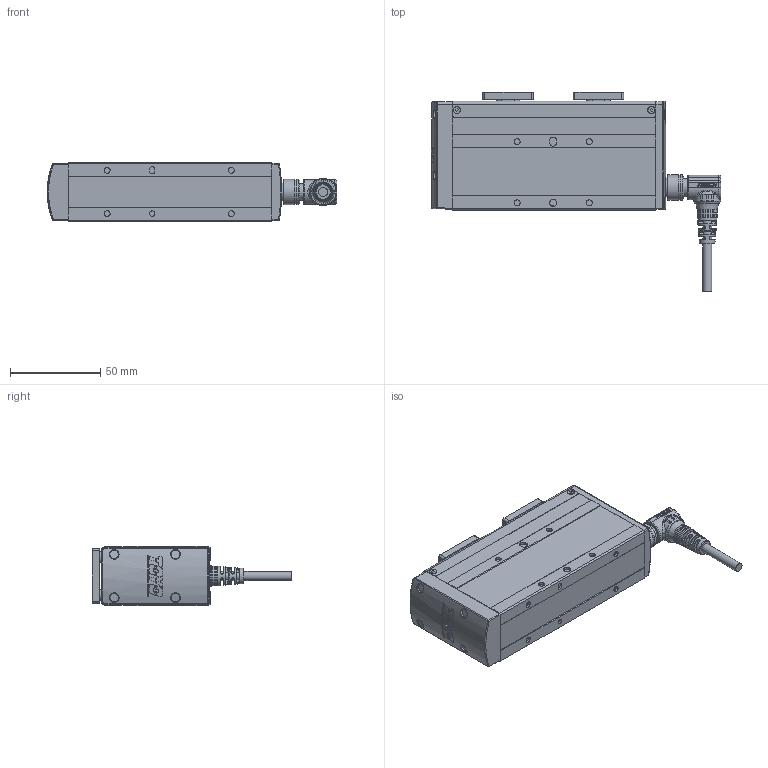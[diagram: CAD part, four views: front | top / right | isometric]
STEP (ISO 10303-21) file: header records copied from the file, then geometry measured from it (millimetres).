
FILE_DESCRIPTION(/* description */ ('STEP AP203'),/* implementation_level */ '2;1');
FILE_NAME(/* name */ 'D:\2025.02.25 帶電匯整給泊舟\3. CHS2系列\4.3D組立\2B-S40\CHS2B-S40-WW.stp',/* time_stamp */ '2025-02-25T17:48:37+08:00',/* author */ ('T10033'),/* organization */ (''),/* preprocessor_version */ 'ST-DEVELOPER v18.1',/* originating_system */ 'Autodesk Inventor 2020',/* authorisation */ '');
FILE_SCHEMA (('CONFIG_CONTROL_DESIGN'));
Products named in the file (7): CHS2C-S40; iso 4762 m2.5 x 6 - 6s_ISO 4762 M2.5 x 6 - 6S; M12 -14PIN  板端-第一種規格; 43T63W4YGT_Shrinkwrap_1; M12-14PIN 線端90度接頭-05中繼線; 12004-000154-03; 22012-000313_M3L10內六角
Assembly tree (15 placements, depth 2):
  CHS2C-S40
    iso 4762 m2.5 x 6 - 6s_ISO 4762 M2.5 x 6 - 6S  x2
    M12 -14PIN  板端-第一種規格
    43T63W4YGT_Shrinkwrap_1
    M12-14PIN 線端90度接頭-05中繼線
    12004-000154-03  x2
    22012-000313_M3L10內六角  x8
Bounding box: 160.72 x 110.95 x 33 mm (x, y, z)
Volume: 250897.2 mm3; surface area: 47232.3 mm2
Topology: 29 solids, 34 shells, 2595 faces, 7473 edges, 5072 vertices
Faces by surface type: plane 1141, cone 602, cylinder 584, bspline 159, torus 105, sphere 4
Full cylindrical faces by diameter (mm): 0.6 x14, 0.65 x14, 1 x14, 2 x4, 2.5 x30, 3 x149, 3.2 x8, 3.3 x12, 3.8 x4, 4 x2, 4.5 x2, 5 x1, 5.5 x8, 6 x8, 8 x1, 8.9 x1, 9.5 x2, 9.6 x1, 10.5 x2, 10.9 x1, 11 x2, 11.2 x1, 11.25 x1, 12 x1, 13 x1, 13.8 x1, 14 x2, 14.4 x1, 18.079 x1
Entity records: 91435 total; most frequent: CARTESIAN_POINT 38292, ORIENTED_EDGE 10878, DIRECTION 10670, EDGE_CURVE 5457, AXIS2_PLACEMENT_3D 4019, VERTEX_POINT 3655, LINE 2632, VECTOR 2632
